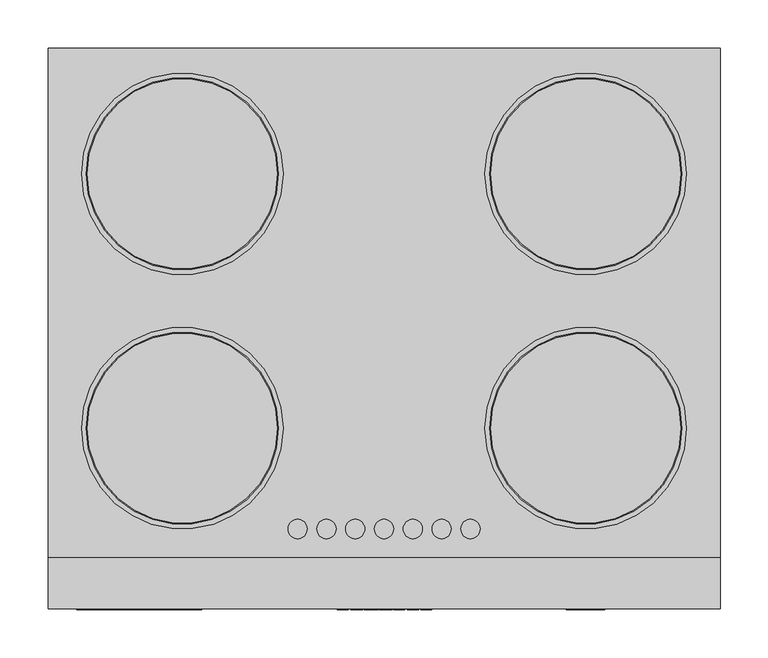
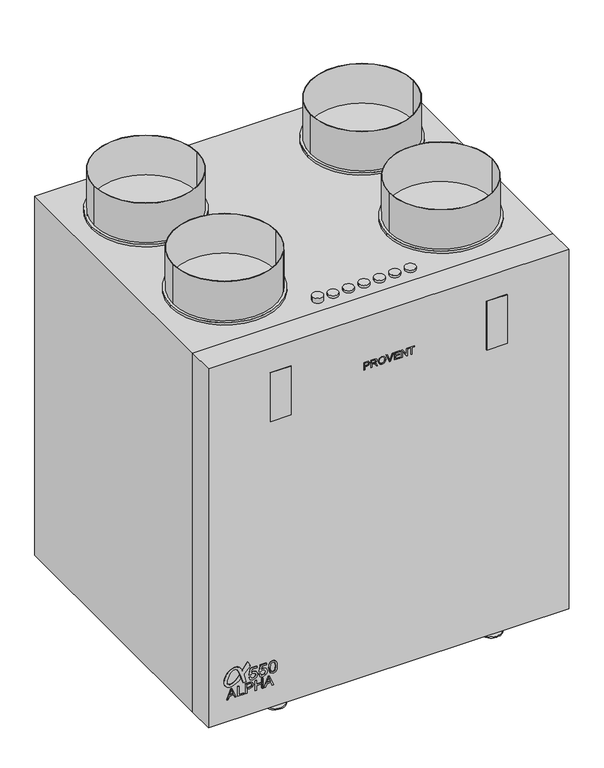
"""IFC4 building model written with IfcOpenShell, lengths in millimetres: proxy geometry, PROVENT_Вертикальная приточно-вытяжная установка_ALPHA 550 V_R : Provent ALPHA 550 V (R)."""

from ifc_helpers import new_model, si_unit, point, frame, frame_2d, origin, origin_with_axes, place, context, project, spatial, polyline, circle_curve, trimmed, segment, composite_curve, outline, extrude, source, transform, mapped, element, save
from ifc_brep_helpers import plane_surface, cylinder_surface, advanced_brep


def mechanical_equipment_572f6157(model_context):
    return source(origin(), model_context, "Body", "SolidModel", [
        extrude(outline(composite_curve([segment(trimmed(circle_curve(frame_2d((105.733129, -284.8522099)), 0.5380284), [point((105.5307619, -284.35369))], [point((105.5307619, -285.3507298))], True, "CARTESIAN"), True, "CONTINUOUS"), segment(polyline([(105.5307619, -285.3507298), (108.4438718, -286.4689679), (110.8786758, -287.7095625), (111.8121807, -288.3632097)]), True, "CONTINUOUS"), segment(trimmed(circle_curve(frame_2d((104.0893382, -298.3336157)), 12.6115539), [point((111.8121807, -288.3632097))], [point((116.6261852, -299.7042937))], False, "CARTESIAN"), True, "CONTINUOUS"), segment(trimmed(circle_curve(frame_2d((94.7661112, -297.314289)), 21.9903379), [point((116.6261852, -299.7042937))], [point((104.4885666, -317.0386096))], False, "CARTESIAN"), True, "CONTINUOUS"), segment(trimmed(circle_curve(frame_2d((93.5739124, -298.5067298)), 21.5072137), [point((104.4885666, -317.0386096))], [point((86.750764, -318.9029277))], False, "CARTESIAN"), True, "CONTINUOUS"), segment(trimmed(circle_curve(frame_2d((92.3890877, -307.7794025)), 12.4709065), [point((86.750764, -318.9029277))], [point((79.9366704, -307.1005714))], False, "CARTESIAN"), True, "CONTINUOUS"), segment(trimmed(circle_curve(frame_2d((110.0461474, -310.804826)), 30.3364814), [point((79.9366704, -307.1005714))], [point((90.1381753, -287.9143312))], False, "CARTESIAN"), True, "CONTINUOUS"), segment(polyline([(90.1381753, -287.9143312), (97.4533974, -290.2911909)]), True, "CONTINUOUS"), segment(trimmed(circle_curve(frame_2d((112.8376087, -315.7533335)), 29.7488598), [point((97.4533974, -290.2911909))], [point((85.9068624, -303.1149172))], True, "CARTESIAN"), True, "CONTINUOUS"), segment(trimmed(circle_curve(frame_2d((94.2043298, -307.0088623)), 9.1657392), [point((85.9068624, -303.1149172))], [point((86.5295452, -312.0196961))], True, "CARTESIAN"), True, "CONTINUOUS"), segment(trimmed(circle_curve(frame_2d((91.0798658, -309.0488114)), 5.4342961), [point((86.5295452, -312.0196961))], [point((91.5402338, -314.4635722))], True, "CARTESIAN"), True, "CONTINUOUS"), segment(trimmed(circle_curve(frame_2d((91.5850962, -295.7123245)), 18.7513014), [point((91.5402338, -314.4635722))], [point((99.8454243, -312.5461679))], True, "CARTESIAN"), True, "CONTINUOUS"), segment(trimmed(circle_curve(frame_2d((91.1893595, -287.4835445)), 26.5153267), [point((99.8454243, -312.5461679))], [point((111.1844004, -304.8979319))], True, "CARTESIAN"), True, "CONTINUOUS"), segment(trimmed(circle_curve(frame_2d((105.8571487, -300.2582402)), 7.0644427), [point((111.1844004, -304.8979319))], [point((110.4868357, -294.9222914))], True, "CARTESIAN"), True, "CONTINUOUS"), segment(trimmed(circle_curve(frame_2d((74.7273898, -357.5430012)), 72.1116583), [point((110.4868357, -294.9222914))], [point((96.0155477, -288.6452103))], True, "CARTESIAN"), True, "CONTINUOUS"), segment(polyline([(96.0155477, -288.6452103), (80.1999436, -283.506409), (80.1999436, -277.4721155), (94.9084674, -281.273213)]), True, "CONTINUOUS"), segment(trimmed(circle_curve(frame_2d((95.7729921, -277.9278942)), 3.4552222), [point((94.9084674, -281.273213))], [point((98.5138308, -280.0317868))], True, "CARTESIAN"), True, "CONTINUOUS"), segment(polyline([(98.5138308, -280.0317868), (109.4841363, -269.8018114)]), True, "CONTINUOUS"), segment(trimmed(circle_curve(frame_2d((110.1625275, -270.5292969)), 0.9947108), [point((109.4841363, -269.8018114))], [point((110.8409186, -269.8018114))], False, "CARTESIAN"), True, "CONTINUOUS"), segment(polyline([(110.8409186, -269.8018114), (118.9566741, -273.7601298)]), True, "CONTINUOUS"), segment(trimmed(circle_curve(frame_2d((118.472789, -274.1037243)), 0.593466), [point((118.9566741, -273.7601298))], [point((118.8242858, -274.5818999))], False, "CARTESIAN"), True, "CONTINUOUS"), segment(polyline([(118.8242858, -274.5818999), (105.5307619, -284.35369)]), True, "CONTINUOUS")], self_intersect=False)), frame((0.0, -293.0, 0.0), z_axis=(0.0, 1.0, 0.0), x_axis=(0.0, 0.0, 1.0)), (0.0, 0.0, 1.0), 1.0),
        extrude(outline(polyline([(55.4809879, -314.6511725), (55.4809879, -311.997517), (61.7595073, -309.7019333), (61.7595073, -301.427041), (55.4809879, -299.1265523), (55.4809879, -296.4728968), (75.57225, -304.4927243), (75.57225, -306.631345), (55.4809879, -314.6511725)]), holes=[polyline([(64.2709151, -308.7797758), (69.6419922, -306.8128334), (73.0608422, -305.5620346), (69.210344, -304.1542729), (64.2709151, -302.3442934), (64.2709151, -308.7797758)])]), frame((0.0, -293.0, 0.0), z_axis=(0.0, 1.0, 0.0), x_axis=(0.0, 0.0, 1.0)), (0.0, 0.0, 1.0), 5.0),
        extrude(outline(polyline([(55.4809879, -293.7898108), (55.4809879, -281.232772), (57.9923957, -281.232772), (57.9923957, -291.278403), (75.57225, -291.278403), (75.57225, -293.7898108), (55.4809879, -293.7898108)])), frame((0.0, -293.0, 0.0), z_axis=(0.0, 1.0, 0.0), x_axis=(0.0, 0.0, 1.0)), (0.0, 0.0, 1.0), 5.0),
        extrude(outline(polyline([(55.4809879, -278.4074383), (55.4809879, -275.8960305), (63.6430631, -275.8960305), (63.6430631, -270.7898284), (65.4187069, -264.95522), (69.7597144, -263.3389918), (72.499209, -263.9374131), (74.441626, -265.5193057), (75.3809513, -267.9595896), (75.57225, -270.9615067), (75.57225, -278.4074383), (55.4809879, -278.4074383)]), holes=[polyline([(66.1544709, -275.8960305), (73.0608422, -275.8960305), (73.0608422, -270.7015368), (72.8891639, -268.190129), (71.7511823, -266.4954193), (69.6714228, -265.8503995), (67.0766284, -266.9442353), (66.1544709, -270.6426756), (66.1544709, -275.8960305)])]), frame((0.0, -293.0, 0.0), z_axis=(0.0, 1.0, 0.0), x_axis=(0.0, 0.0, 1.0)), (0.0, 0.0, 1.0), 5.0),
        extrude(outline(polyline([(55.4809879, -259.8858061), (55.4809879, -257.3743984), (64.898767, -257.3743984), (64.898767, -246.7009154), (55.4809879, -246.7009154), (55.4809879, -244.1895076), (75.57225, -244.1895076), (75.57225, -246.7009154), (67.4101748, -246.7009154), (67.4101748, -257.3743984), (75.57225, -257.3743984), (75.57225, -259.8858061), (55.4809879, -259.8858061)])), frame((0.0, -293.0, 0.0), z_axis=(0.0, 1.0, 0.0), x_axis=(0.0, 0.0, 1.0)), (0.0, 0.0, 1.0), 5.0),
        extrude(outline(polyline([(55.4809879, -242.1342736), (55.4809879, -239.4806181), (61.7595073, -237.1850345), (61.7595073, -228.9101421), (55.4809879, -226.6096534), (55.4809879, -223.9559979), (75.57225, -231.9758254), (75.57225, -234.1144461), (55.4809879, -242.1342736)]), holes=[polyline([(64.2709151, -236.2628769), (69.6419922, -234.2959345), (73.0608422, -233.0451357), (69.210344, -231.637374), (64.2709151, -229.8273946), (64.2709151, -236.2628769)])]), frame((0.0, -293.0, 0.0), z_axis=(0.0, 1.0, 0.0), x_axis=(0.0, 0.0, 1.0)), (0.0, 0.0, 1.0), 5.0),
        extrude(outline(polyline([(86.2812872, -271.7885291), (81.1523991, -269.3390482), (79.2179529, -263.7993585), (82.2284539, -257.2755844), (88.0532522, -255.3074157), (93.8412622, -257.4932479), (96.0914738, -262.8612594), (94.2765893, -267.4536529), (101.1927708, -266.1108837), (101.1927708, -256.4846381), (104.3320305, -256.4846381), (104.3320305, -268.6492694), (91.3825842, -271.3961217), (90.9901768, -268.256862), (92.4065225, -266.4940941), (92.9522141, -263.7380448), (91.5849193, -259.7618536), (87.8570485, -258.4466754), (83.8624631, -259.8507584), (82.3572126, -263.7870957), (83.4393988, -267.0673768), (86.6736947, -268.6492694), (86.2812872, -271.7885291)])), frame((0.0, -293.0, 0.0), z_axis=(0.0, 1.0, 0.0), x_axis=(0.0, 0.0, 1.0)), (0.0, 0.0, 1.0), 5.0),
        extrude(outline(polyline([(86.2812872, -252.5605635), (81.1523991, -250.1110825), (79.2179529, -244.5713928), (82.2284539, -238.0476188), (88.0532522, -236.0794501), (93.8412622, -238.2652823), (96.0914738, -243.6332937), (94.2765893, -248.2256873), (101.1927708, -246.882918), (101.1927708, -237.2566725), (104.3320305, -237.2566725), (104.3320305, -249.4213038), (91.3825842, -252.168156), (90.9901768, -249.0288963), (92.4065225, -247.2661285), (92.9522141, -244.5100792), (91.5849193, -240.5338879), (87.8570485, -239.2187098), (83.8624631, -240.6227928), (82.3572126, -244.5591301), (83.4393988, -247.8394112), (86.6736947, -249.4213038), (86.2812872, -252.5605635)])), frame((0.0, -293.0, 0.0), z_axis=(0.0, 1.0, 0.0), x_axis=(0.0, 0.0, 1.0)), (0.0, 0.0, 1.0), 5.0),
        extrude(outline(polyline([(91.9650641, -233.3325979), (81.6091859, -230.8310003), (79.2179529, -225.0920412), (80.5944447, -220.4965819), (84.7699054, -217.7650581), (91.9650641, -216.8514845), (97.8665044, -217.4217016), (101.5821126, -218.8932296), (103.9150975, -221.425484), (104.7244379, -225.0920412), (103.3571432, -229.6691063), (99.1908796, -232.4098272), (91.9650641, -233.3325979)]), holes=[polyline([(91.9711954, -230.1933382), (99.9051838, -228.6727593), (101.5851782, -225.1288294), (99.6783232, -221.4132212), (91.9711954, -219.9907442), (84.1812942, -221.4622722), (82.3572126, -225.0920412), (84.1751628, -228.7218102), (91.9711954, -230.1933382)])]), frame((0.0, -293.0, 0.0), z_axis=(0.0, 1.0, 0.0), x_axis=(0.0, 0.0, 1.0)), (0.0, 0.0, 1.0), 5.0),
        extrude(outline(polyline([(-190.0, -293.0), (-230.0, -293.0), (-230.0, -292.0), (-190.0, -292.0), (-190.0, -293.0)])), frame((0.0, 0.0, 597.0), z_axis=(0.0, 0.0, 1.0), x_axis=(1.0, 0.0, 0.0)), (0.0, 0.0, 1.0), 100.0),
        extrude(outline(polyline([(230.0, -293.0), (190.0, -293.0), (190.0, -292.0), (230.0, -292.0), (230.0, -293.0)])), frame((0.0, 0.0, 597.0), z_axis=(0.0, 0.0, 1.0), x_axis=(1.0, 0.0, 0.0)), (0.0, 0.0, 1.0), 100.0),
        extrude(outline(composite_curve([segment(trimmed(circle_curve(frame_2d((-90.0, -209.0)), 10.0), [point((-100.0, -209.0))], [point((-80.0, -209.0))], False, "CARTESIAN"), True, "CONTINUOUS"), segment(trimmed(circle_curve(frame_2d((-90.0, -209.0)), 10.0), [point((-80.0, -209.0))], [point((-100.0, -209.0))], False, "CARTESIAN"), True, "CONTINUOUS")], self_intersect=False)), frame((0.0, 0.0, 747.0), z_axis=(0.0, 0.0, 1.0), x_axis=(1.0, 0.0, 0.0)), (0.0, 0.0, 1.0), 10.0),
        extrude(outline(composite_curve([segment(trimmed(circle_curve(frame_2d((0.0, -209.0)), 10.0), [point((-10.0, -209.0))], [point((10.0, -209.0))], False, "CARTESIAN"), True, "CONTINUOUS"), segment(trimmed(circle_curve(frame_2d((0.0, -209.0)), 10.0), [point((10.0, -209.0))], [point((-10.0, -209.0))], False, "CARTESIAN"), True, "CONTINUOUS")], self_intersect=False)), frame((0.0, 0.0, 747.0), z_axis=(0.0, 0.0, 1.0), x_axis=(1.0, 0.0, 0.0)), (0.0, 0.0, 1.0), 5.0),
        extrude(outline(composite_curve([segment(trimmed(circle_curve(frame_2d((30.0, -209.0)), 10.0), [point((20.0, -209.0))], [point((40.0, -209.0))], False, "CARTESIAN"), True, "CONTINUOUS"), segment(trimmed(circle_curve(frame_2d((30.0, -209.0)), 10.0), [point((40.0, -209.0))], [point((20.0, -209.0))], False, "CARTESIAN"), True, "CONTINUOUS")], self_intersect=False)), frame((0.0, 0.0, 747.0), z_axis=(0.0, 0.0, 1.0), x_axis=(1.0, 0.0, 0.0)), (0.0, 0.0, 1.0), 5.0),
        extrude(outline(composite_curve([segment(trimmed(circle_curve(frame_2d((60.0, -209.0)), 10.0), [point((50.0, -209.0))], [point((70.0, -209.0))], False, "CARTESIAN"), True, "CONTINUOUS"), segment(trimmed(circle_curve(frame_2d((60.0, -209.0)), 10.0), [point((70.0, -209.0))], [point((50.0, -209.0))], False, "CARTESIAN"), True, "CONTINUOUS")], self_intersect=False)), frame((0.0, 0.0, 747.0), z_axis=(0.0, 0.0, 1.0), x_axis=(1.0, 0.0, 0.0)), (0.0, 0.0, 1.0), 5.0),
        extrude(outline(composite_curve([segment(trimmed(circle_curve(frame_2d((90.0, -209.0)), 10.0), [point((80.0, -209.0))], [point((100.0, -209.0))], False, "CARTESIAN"), True, "CONTINUOUS"), segment(trimmed(circle_curve(frame_2d((90.0, -209.0)), 10.0), [point((100.0, -209.0))], [point((80.0, -209.0))], False, "CARTESIAN"), True, "CONTINUOUS")], self_intersect=False)), frame((0.0, 0.0, 747.0), z_axis=(0.0, 0.0, 1.0), x_axis=(1.0, 0.0, 0.0)), (0.0, 0.0, 1.0), 5.0),
        extrude(outline(composite_curve([segment(trimmed(circle_curve(frame_2d((-30.0, -209.0)), 10.0), [point((-40.0, -209.0))], [point((-20.0, -209.0))], False, "CARTESIAN"), True, "CONTINUOUS"), segment(trimmed(circle_curve(frame_2d((-30.0, -209.0)), 10.0), [point((-20.0, -209.0))], [point((-40.0, -209.0))], False, "CARTESIAN"), True, "CONTINUOUS")], self_intersect=False)), frame((0.0, 0.0, 747.0), z_axis=(0.0, 0.0, 1.0), x_axis=(1.0, 0.0, 0.0)), (0.0, 0.0, 1.0), 5.0),
        extrude(outline(composite_curve([segment(trimmed(circle_curve(frame_2d((-60.0, -209.0)), 10.0), [point((-70.0, -209.0))], [point((-50.0, -209.0))], False, "CARTESIAN"), True, "CONTINUOUS"), segment(trimmed(circle_curve(frame_2d((-60.0, -209.0)), 10.0), [point((-50.0, -209.0))], [point((-70.0, -209.0))], False, "CARTESIAN"), True, "CONTINUOUS")], self_intersect=False)), frame((0.0, 0.0, 747.0), z_axis=(0.0, 0.0, 1.0), x_axis=(1.0, 0.0, 0.0)), (0.0, 0.0, 1.0), 5.0),
        advanced_brep(
        [(-230.0, -239.2475488, 2.5), (-230.0, -201.7475488, 10.0), (-230.0, -189.0, 10.0), (-230.0, -189.0, 7.5), (-230.0, -201.5, 7.5), (-230.0, -239.0, 0.0), (-230.0, -272.0, 0.0), (-230.0, -272.0, 2.5), (-190.0, -239.0, 0.0), (-190.0, -201.5, 7.5), (-190.0, -189.0, 7.5), (-190.0, -189.0, 10.0), (-190.0, -201.7475488, 10.0), (-190.0, -239.2475488, 2.5), (-190.0, -272.0, 2.5), (-190.0, -272.0, 0.0), (-210.0, -292.0, 0.0), (-210.0, -292.0, 2.5)],
        [
            (0, 1),
            (1, 2),
            (2, 3),
            (3, 4),
            (4, 5),
            (5, 6),
            (6, 7),
            (7, 0),
            (8, 9),
            (9, 10),
            (10, 11),
            (11, 12),
            (12, 13),
            (13, 14),
            (14, 15),
            (15, 8),
            (5, 8),
            (15, 16, circle_curve(frame((-210.0, -272.0, 0.0), z_axis=(0.0, 0.0, -1.0), x_axis=(-1.0, 0.0, 0.0)), 20.0)),
            (16, 6, circle_curve(frame((-210.0, -272.0, 0.0), z_axis=(0.0, 0.0, -1.0), x_axis=(1.0, 0.0, 0.0)), 20.0)),
            (4, 9),
            (3, 10),
            (2, 11),
            (1, 12),
            (0, 13),
            (7, 17, circle_curve(frame((-210.0, -272.0, 2.5), z_axis=(0.0, 0.0, 1.0), x_axis=(1.0, 0.0, 0.0)), 20.0)),
            (17, 14, circle_curve(frame((-210.0, -272.0, 2.5), z_axis=(0.0, 0.0, 1.0), x_axis=(-1.0, 0.0, 0.0)), 20.0)),
            (17, 16),
        ],
        [
            plane_surface(frame((-230.0, -292.0, 2.5), z_axis=(-1.0, 0.0, 0.0), x_axis=(0.0, 1.0, 0.0))),
            plane_surface(frame((-190.0, -292.0, 2.5), z_axis=(1.0, 0.0, 0.0), x_axis=(0.0, -1.0, 0.0))),
            plane_surface(frame((-230.0, -239.0, 0.0), z_axis=(0.0, 0.0, -1.0), x_axis=(1.0, 0.0, 0.0))),
            plane_surface(frame((-230.0, -201.5, 7.5), z_axis=(0.0, 0.19611613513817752, -0.9805806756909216), x_axis=(1.0, 0.0, 0.0))),
            plane_surface(frame((-230.0, -189.0, 7.5), z_axis=(0.0, 0.0, -1.0), x_axis=(1.0, 0.0, 0.0))),
            plane_surface(frame((-230.0, -189.0, 10.0), z_axis=(0.0, 1.0, 0.0), x_axis=(1.0, 0.0, 0.0))),
            plane_surface(frame((-230.0, -201.7475488, 10.0), z_axis=(0.0, 0.0, 1.0), x_axis=(1.0, 0.0, 0.0))),
            plane_surface(frame((-230.0, -239.2475488, 2.5), z_axis=(0.0, -0.1961161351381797, 0.980580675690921), x_axis=(1.0, 0.0, 0.0))),
            plane_surface(frame((-230.0, -292.0, 2.5), z_axis=(0.0, 0.0, 1.0), x_axis=(1.0, 0.0, 0.0))),
            cylinder_surface(frame((-210.0, -272.0, 0.0), z_axis=(0.0, 0.0, -1.0), x_axis=(-1.0, 0.0, 0.0)), 20.0),
            cylinder_surface(frame((-210.0, -272.0, 0.0), z_axis=(0.0, 0.0, -1.0), x_axis=(1.0, 0.0, 0.0)), 20.0),
        ],
        [
            (0, [[1, 2, 3, 4, 5, 6, 7, 8]]),
            (1, [[9, 10, 11, 12, 13, 14, 15, 16]]),
            (2, [[17, -16, 18, 19, -6]]),
            (3, [[-5, 20, -9, -17]]),
            (4, [[-4, 21, -10, -20]]),
            (5, [[-3, 22, -11, -21]]),
            (6, [[-2, 23, -12, -22]]),
            (7, [[-1, 24, -13, -23]]),
            (8, [[-24, -8, 25, 26, -14]]),
            (9, [[-15, -26, 27, -18]]),
            (10, [[-7, -19, -27, -25]]),
        ],
    ),
        advanced_brep(
        [(230.0, -239.0, 0.0), (230.0, -201.5, 7.5), (230.0, -189.0, 7.5), (230.0, -189.0, 10.0), (230.0, -201.7475488, 10.0), (230.0, -239.2475488, 2.5), (230.0, -272.0, 2.5), (230.0, -272.0, 0.0), (190.0, -239.2475488, 2.5), (190.0, -201.7475488, 10.0), (190.0, -189.0, 10.0), (190.0, -189.0, 7.5), (190.0, -201.5, 7.5), (190.0, -239.0, 0.0), (190.0, -272.0, 0.0), (190.0, -272.0, 2.5), (210.0, -292.0, 0.0), (210.0, -292.0, 2.5)],
        [
            (0, 1),
            (1, 2),
            (2, 3),
            (3, 4),
            (4, 5),
            (5, 6),
            (6, 7),
            (7, 0),
            (8, 9),
            (9, 10),
            (10, 11),
            (11, 12),
            (12, 13),
            (13, 14),
            (14, 15),
            (15, 8),
            (13, 0),
            (7, 16, circle_curve(frame((210.0, -272.0, 0.0), z_axis=(0.0, 0.0, -1.0), x_axis=(-1.0, 0.0, 0.0)), 20.0)),
            (16, 14, circle_curve(frame((210.0, -272.0, 0.0), z_axis=(0.0, 0.0, -1.0), x_axis=(1.0, 0.0, 0.0)), 20.0)),
            (12, 1),
            (11, 2),
            (10, 3),
            (9, 4),
            (8, 5),
            (15, 17, circle_curve(frame((210.0, -272.0, 2.5), z_axis=(0.0, 0.0, 1.0), x_axis=(1.0, 0.0, 0.0)), 20.0)),
            (17, 6, circle_curve(frame((210.0, -272.0, 2.5), z_axis=(0.0, 0.0, 1.0), x_axis=(-1.0, 0.0, 0.0)), 20.0)),
            (16, 17),
        ],
        [
            plane_surface(frame((230.0, -292.0, 0.0), z_axis=(1.0, 0.0, 0.0), x_axis=(0.0, 0.0, -1.0))),
            plane_surface(frame((190.0, -292.0, 0.0), z_axis=(-1.0, 0.0, 0.0), x_axis=(0.0, 0.0, 1.0))),
            plane_surface(frame((230.0, -292.0, 0.0), z_axis=(0.0, 0.0, -1.0), x_axis=(-1.0, 0.0, 0.0))),
            plane_surface(frame((230.0, -239.0, 0.0), z_axis=(0.0, 0.1961161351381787, -0.9805806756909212), x_axis=(-1.0, 0.0, 0.0))),
            plane_surface(frame((230.0, -201.5, 7.5), z_axis=(0.0, 0.0, -1.0), x_axis=(-1.0, 0.0, 0.0))),
            plane_surface(frame((230.0, -189.0, 7.5), z_axis=(0.0, 1.0, 0.0), x_axis=(-1.0, 0.0, 0.0))),
            plane_surface(frame((230.0, -189.0, 10.0), z_axis=(0.0, 0.0, 1.0), x_axis=(-1.0, 0.0, 0.0))),
            plane_surface(frame((230.0, -201.7475488, 10.0), z_axis=(0.0, -0.19611613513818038, 0.9805806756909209), x_axis=(-1.0, 0.0, 0.0))),
            plane_surface(frame((230.0, -239.2475488, 2.5), z_axis=(0.0, 0.0, 1.0), x_axis=(-1.0, 0.0, 0.0))),
            cylinder_surface(frame((210.0, -272.0, 0.0), z_axis=(0.0, 0.0, -1.0), x_axis=(1.0, 0.0, 0.0)), 20.0),
            cylinder_surface(frame((210.0, -272.0, 0.0), z_axis=(0.0, 0.0, -1.0), x_axis=(-1.0, 0.0, 0.0)), 20.0),
        ],
        [
            (0, [[1, 2, 3, 4, 5, 6, 7, 8]]),
            (1, [[9, 10, 11, 12, 13, 14, 15, 16]]),
            (2, [[17, -8, 18, 19, -14]]),
            (3, [[-1, -17, -13, 20]]),
            (4, [[-2, -20, -12, 21]]),
            (5, [[-3, -21, -11, 22]]),
            (6, [[-4, -22, -10, 23]]),
            (7, [[-5, -23, -9, 24]]),
            (8, [[-24, -16, 25, 26, -6]]),
            (9, [[-15, -19, 27, -25]]),
            (10, [[-7, -26, -27, -18]]),
        ],
    ),
        extrude(outline(polyline([(350.0, -292.0), (-350.0, -292.0), (-350.0, -239.0), (350.0, -239.0), (350.0, -292.0)])), frame((0.0, 0.0, 10.0), z_axis=(0.0, 0.0, 1.0), x_axis=(1.0, 0.0, 0.0)), (0.0, 0.0, 1.0), 737.0),
        extrude(outline(polyline([(639.5, -48.7370067), (639.5, -46.8534509), (645.6215564, -46.8534509), (645.6215564, -43.0237993), (646.9532892, -38.647843), (650.2090449, -37.4356718), (652.2636658, -37.8844879), (653.7204785, -39.0709073), (654.4249725, -40.9011202), (654.5684465, -43.152558), (654.5684465, -48.7370067), (639.5, -48.7370067)]), holes=[polyline([(647.5051122, -46.8534509), (652.6848907, -46.8534509), (652.6848907, -42.9575806), (651.7026458, -39.8029925), (650.1428261, -39.3192276), (648.1967304, -40.1396045), (647.5051122, -42.9134347), (647.5051122, -46.8534509)])]), frame((0.0, -293.0, 0.0), z_axis=(0.0, 1.0, 0.0), x_axis=(0.0, 0.0, 1.0)), (0.0, 0.0, 1.0), 5.0),
        extrude(outline(polyline([(639.5, -34.8457826), (639.5, -32.9622268), (646.0924454, -32.9622268), (644.690815, -27.7051931), (642.6233181, -26.2888474), (639.5, -24.3280363), (639.5, -22.1391385), (643.5834901, -24.6517725), (646.3278898, -27.2490194), (647.7295202, -24.0944313), (650.4444894, -23.0735587), (652.7235183, -23.6897611), (654.1619369, -25.3378724), (654.5684465, -28.3526654), (654.5684465, -34.8457826), (639.5, -34.8457826)]), holes=[polyline([(647.9760012, -32.9622268), (652.6848907, -32.9622268), (652.6848907, -28.2717313), (652.0337396, -25.7535791), (648.2427156, -26.5960288), (647.9760012, -28.7462991), (647.9760012, -32.9622268)])]), frame((0.0, -293.0, 0.0), z_axis=(0.0, 1.0, 0.0), x_axis=(0.0, 0.0, 1.0)), (0.0, 0.0, 1.0), 5.0),
        extrude(outline(polyline([(646.835567, -20.4836695), (643.08501, -19.6228256), (640.2891069, -17.0917975), (639.2645555, -13.3026129), (640.1916182, -9.655063), (642.9213026, -7.0431008), (647.0084715, -6.1215564), (651.0404582, -6.9971155), (653.8106096, -9.542859), (654.803891, -13.2915765), (652.6885695, -18.4750338), (646.835567, -20.4836695)]), holes=[polyline([(646.8171729, -18.6001137), (651.5131866, -17.0292576), (652.9203352, -13.28054), (652.1900894, -10.5159068), (650.1317897, -8.6452269), (647.0231868, -8.0051122), (642.6785004, -9.5005525), (641.1481113, -13.3136494), (642.6637852, -17.0936369), (646.8171729, -18.6001137)])]), frame((0.0, -293.0, 0.0), z_axis=(0.0, 1.0, 0.0), x_axis=(0.0, 0.0, 1.0)), (0.0, 0.0, 1.0), 5.0),
        extrude(outline(polyline([(639.5, 0.919705), (639.5, 2.8658007), (654.5684465, 8.6084387), (654.5684465, 6.5924454), (643.7122488, 2.5678163), (641.2658336, 1.7658336), (643.7122488, 0.9528144), (654.5684465, -3.0607782), (654.5684465, -5.0767715), (639.5, 0.919705)])), frame((0.0, -293.0, 0.0), z_axis=(0.0, 1.0, 0.0), x_axis=(0.0, 0.0, 1.0)), (0.0, 0.0, 1.0), 5.0),
        extrude(outline(polyline([(639.5, 10.359557), (639.5, 21.4254474), (641.3835558, 21.4254474), (641.3835558, 12.2431128), (646.3278898, 12.2431128), (646.3278898, 20.719114), (648.2114456, 20.719114), (648.2114456, 12.2431128), (652.6848907, 12.2431128), (652.6848907, 21.1900029), (654.5684465, 21.1900029), (654.5684465, 10.359557), (639.5, 10.359557)])), frame((0.0, -293.0, 0.0), z_axis=(0.0, 1.0, 0.0), x_axis=(0.0, 0.0, 1.0)), (0.0, 0.0, 1.0), 5.0),
        extrude(outline(polyline([(639.5, 24.2507811), (639.5, 26.1343369), (651.4414496, 26.1343369), (639.5, 34.0070116), (639.5, 36.023005), (654.5684465, 36.023005), (654.5684465, 34.1394492), (642.6306758, 34.1394492), (654.5684465, 26.2667745), (654.5684465, 24.2507811), (639.5, 24.2507811)])), frame((0.0, -293.0, 0.0), z_axis=(0.0, 1.0, 0.0), x_axis=(0.0, 0.0, 1.0)), (0.0, 0.0, 1.0), 5.0),
        extrude(outline(polyline([(639.5, 43.0863393), (639.5, 44.9698951), (652.6848907, 44.9698951), (652.6848907, 49.9142291), (654.5684465, 49.9142291), (654.5684465, 38.1420053), (652.6848907, 38.1420053), (652.6848907, 43.0863393), (639.5, 43.0863393)])), frame((0.0, -293.0, 0.0), z_axis=(0.0, 1.0, 0.0), x_axis=(0.0, 0.0, 1.0)), (0.0, 0.0, 1.0), 5.0),
        extrude(outline(composite_curve([segment(trimmed(circle_curve(frame_2d((-210.0, 161.0)), 105.0), [point((-315.0, 161.0))], [point((-105.0, 161.0))], False, "CARTESIAN"), True, "CONTINUOUS"), segment(trimmed(circle_curve(frame_2d((-210.0, 161.0)), 105.0), [point((-105.0, 161.0))], [point((-315.0, 161.0))], False, "CARTESIAN"), True, "CONTINUOUS")], self_intersect=False)), frame((0.0, 0.0, 747.0), z_axis=(0.0, 0.0, 1.0), x_axis=(1.0, 0.0, 0.0)), (0.0, 0.0, 1.0), 5.0),
        extrude(outline(composite_curve([segment(trimmed(circle_curve(frame_2d((210.0, 161.0)), 105.0), [point((105.0, 161.0))], [point((315.0, 161.0))], False, "CARTESIAN"), True, "CONTINUOUS"), segment(trimmed(circle_curve(frame_2d((210.0, 161.0)), 105.0), [point((315.0, 161.0))], [point((105.0, 161.0))], False, "CARTESIAN"), True, "CONTINUOUS")], self_intersect=False)), frame((0.0, 0.0, 747.0), z_axis=(0.0, 0.0, 1.0), x_axis=(1.0, 0.0, 0.0)), (0.0, 0.0, 1.0), 5.0),
        extrude(outline(composite_curve([segment(trimmed(circle_curve(frame_2d((210.0, -104.0)), 105.0), [point((105.0, -104.0))], [point((315.0, -104.0))], False, "CARTESIAN"), True, "CONTINUOUS"), segment(trimmed(circle_curve(frame_2d((210.0, -104.0)), 105.0), [point((315.0, -104.0))], [point((105.0, -104.0))], False, "CARTESIAN"), True, "CONTINUOUS")], self_intersect=False)), frame((0.0, 0.0, 747.0), z_axis=(0.0, 0.0, 1.0), x_axis=(1.0, 0.0, 0.0)), (0.0, 0.0, 1.0), 5.0),
        extrude(outline(composite_curve([segment(trimmed(circle_curve(frame_2d((-210.0, -104.0)), 105.0), [point((-315.0, -104.0))], [point((-105.0, -104.0))], False, "CARTESIAN"), True, "CONTINUOUS"), segment(trimmed(circle_curve(frame_2d((-210.0, -104.0)), 105.0), [point((-105.0, -104.0))], [point((-315.0, -104.0))], False, "CARTESIAN"), True, "CONTINUOUS")], self_intersect=False)), frame((0.0, 0.0, 747.0), z_axis=(0.0, 0.0, 1.0), x_axis=(1.0, 0.0, 0.0)), (0.0, 0.0, 1.0), 5.0),
        extrude(outline(polyline([(163.5, 292.0), (163.5, 289.5), (-163.5, 289.5), (-163.5, 292.0), (163.5, 292.0)])), origin_with_axes(), (0.0, 0.0, 1.0), 10.0),
        extrude(outline(composite_curve([segment(trimmed(circle_curve(frame_2d((-210.0, 161.0)), 100.0), [point((-310.0, 161.0))], [point((-110.0, 161.0))], False, "CARTESIAN"), True, "CONTINUOUS"), segment(trimmed(circle_curve(frame_2d((-210.0, 161.0)), 100.0), [point((-110.0, 161.0))], [point((-310.0, 161.0))], False, "CARTESIAN"), True, "CONTINUOUS")], self_intersect=False), holes=[composite_curve([segment(trimmed(circle_curve(frame_2d((-210.0, 161.0)), 99.0), [point((-309.0, 161.0))], [point((-111.0, 161.0))], True, "CARTESIAN"), True, "CONTINUOUS"), segment(trimmed(circle_curve(frame_2d((-210.0, 161.0)), 99.0), [point((-111.0, 161.0))], [point((-309.0, 161.0))], True, "CARTESIAN"), True, "CONTINUOUS")], self_intersect=False)]), frame((0.0, 0.0, 747.0), z_axis=(0.0, 0.0, 1.0), x_axis=(1.0, 0.0, 0.0)), (0.0, 0.0, 1.0), 86.0),
        extrude(outline(composite_curve([segment(trimmed(circle_curve(frame_2d((210.0, 161.0)), 100.0), [point((110.0, 161.0))], [point((310.0, 161.0))], False, "CARTESIAN"), True, "CONTINUOUS"), segment(trimmed(circle_curve(frame_2d((210.0, 161.0)), 100.0), [point((310.0, 161.0))], [point((110.0, 161.0))], False, "CARTESIAN"), True, "CONTINUOUS")], self_intersect=False), holes=[composite_curve([segment(trimmed(circle_curve(frame_2d((210.0, 161.0)), 99.0), [point((111.0, 161.0))], [point((309.0, 161.0))], True, "CARTESIAN"), True, "CONTINUOUS"), segment(trimmed(circle_curve(frame_2d((210.0, 161.0)), 99.0), [point((309.0, 161.0))], [point((111.0, 161.0))], True, "CARTESIAN"), True, "CONTINUOUS")], self_intersect=False)]), frame((0.0, 0.0, 747.0), z_axis=(0.0, 0.0, 1.0), x_axis=(1.0, 0.0, 0.0)), (0.0, 0.0, 1.0), 86.0),
        extrude(outline(composite_curve([segment(trimmed(circle_curve(frame_2d((-210.0, -104.0)), 100.0), [point((-310.0, -104.0))], [point((-110.0, -104.0))], False, "CARTESIAN"), True, "CONTINUOUS"), segment(trimmed(circle_curve(frame_2d((-210.0, -104.0)), 100.0), [point((-110.0, -104.0))], [point((-310.0, -104.0))], False, "CARTESIAN"), True, "CONTINUOUS")], self_intersect=False), holes=[composite_curve([segment(trimmed(circle_curve(frame_2d((-210.0, -104.0)), 99.0), [point((-309.0, -104.0))], [point((-111.0, -104.0))], True, "CARTESIAN"), True, "CONTINUOUS"), segment(trimmed(circle_curve(frame_2d((-210.0, -104.0)), 99.0), [point((-111.0, -104.0))], [point((-309.0, -104.0))], True, "CARTESIAN"), True, "CONTINUOUS")], self_intersect=False)]), frame((0.0, 0.0, 747.0), z_axis=(0.0, 0.0, 1.0), x_axis=(1.0, 0.0, 0.0)), (0.0, 0.0, 1.0), 86.0),
        extrude(outline(composite_curve([segment(trimmed(circle_curve(frame_2d((210.0, -104.0)), 100.0), [point((110.0, -104.0))], [point((310.0, -104.0))], False, "CARTESIAN"), True, "CONTINUOUS"), segment(trimmed(circle_curve(frame_2d((210.0, -104.0)), 100.0), [point((310.0, -104.0))], [point((110.0, -104.0))], False, "CARTESIAN"), True, "CONTINUOUS")], self_intersect=False), holes=[composite_curve([segment(trimmed(circle_curve(frame_2d((210.0, -104.0)), 99.0), [point((111.0, -104.0))], [point((309.0, -104.0))], True, "CARTESIAN"), True, "CONTINUOUS"), segment(trimmed(circle_curve(frame_2d((210.0, -104.0)), 99.0), [point((309.0, -104.0))], [point((111.0, -104.0))], True, "CARTESIAN"), True, "CONTINUOUS")], self_intersect=False)]), frame((0.0, 0.0, 747.0), z_axis=(0.0, 0.0, 1.0), x_axis=(1.0, 0.0, 0.0)), (0.0, 0.0, 1.0), 86.0),
        extrude(outline(polyline([(350.0, 292.0), (350.0, -239.0), (-350.0, -239.0), (-350.0, 292.0), (350.0, 292.0)])), frame((0.0, 0.0, 10.0), z_axis=(0.0, 0.0, 1.0), x_axis=(1.0, 0.0, 0.0)), (0.0, 0.0, 1.0), 737.0),
    ])


if __name__ == "__main__":
    model = new_model("IFC4")
    model_context = context("Model", 3, world=origin())
    ifc_project = project(units=[si_unit("LENGTHUNIT", "METRE", prefix="MILLI")], contexts=[model_context])
    site = spatial("IfcSite", under=ifc_project)
    building = spatial("IfcBuilding", under=site)
    placement = place(None, origin())
    mechanical_equipment_shape = mechanical_equipment_572f6157(model_context)
    element("IfcBuildingElementProxy", 1, Name="PROVENT_Вертикальная приточно-вытяжная установка_ALPHA 550 V_R : Provent ALPHA 550 V (R)", ObjectType="PROVENT_Вертикальная приточно-вытяжная установка_ALPHA 550 V_R : Provent ALPHA 550 V (R)", at=placement, inside=building, context=model_context, shape_type="MappedRepresentation", body=[
        mapped(mechanical_equipment_shape, transform((0.0, 0.0, 0.0), x_axis=(1.0, 0.0, 0.0), y_axis=(0.0, 1.0, 0.0), z_axis=(0.0, 0.0, 1.0))),
    ])
    save(model, "model.ifc")
